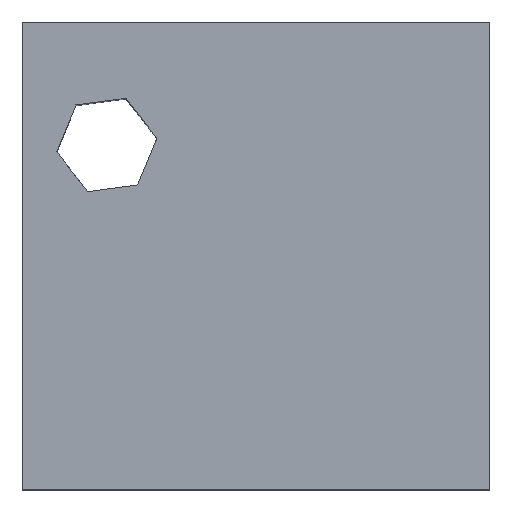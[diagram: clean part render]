
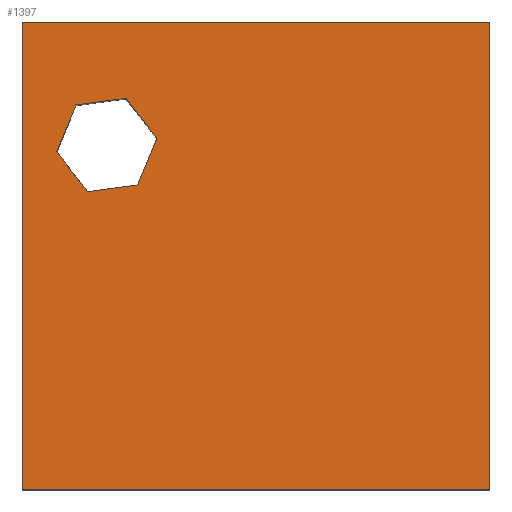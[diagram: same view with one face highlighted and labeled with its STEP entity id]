
A CAD part, top view. The second image highlights one B-rep face of the part: STEP entity #1397.
In plain terms, the highlighted planar face has unit normal (0, 0, 1).
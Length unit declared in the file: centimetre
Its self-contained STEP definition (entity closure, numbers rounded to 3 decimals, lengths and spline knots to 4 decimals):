
#16 = LINE ( 'NONE', #816, #1075 ) ;
#28 = VECTOR ( 'NONE', #1450, 100. ) ;
#37 = VERTEX_POINT ( 'NONE', #1379 ) ;
#40 = DIRECTION ( 'NONE',  ( 0.38, 0.925, 0. ) ) ;
#41 = DIRECTION ( 'NONE',  ( 0., -1., 0. ) ) ;
#51 = ORIENTED_EDGE ( 'NONE', *, *, #1456, .F. ) ;
#58 = DIRECTION ( 'NONE',  ( 1., 0., 0. ) ) ;
#62 = EDGE_CURVE ( 'NONE', #950, #798, #361, .T. ) ;
#129 = CARTESIAN_POINT ( 'NONE',  ( 73.5263, 722.3697, 1000. ) ) ;
#162 = DIRECTION ( 'NONE',  ( 0., 0., 1. ) ) ;
#188 = VECTOR ( 'NONE', #395, 100. ) ;
#190 = DIRECTION ( 'NONE',  ( -1., 0., 0. ) ) ;
#203 = EDGE_CURVE ( 'NONE', #328, #1264, #488, .T. ) ;
#226 = DIRECTION ( 'NONE',  ( 0.611, -0.792, 0. ) ) ;
#249 = FACE_OUTER_BOUND ( 'NONE', #371, .T. ) ;
#270 = EDGE_CURVE ( 'NONE', #798, #448, #822, .T. ) ;
#287 = VERTEX_POINT ( 'NONE', #996 ) ;
#303 = CARTESIAN_POINT ( 'NONE',  ( 0., 1000., 1000. ) ) ;
#328 = VERTEX_POINT ( 'NONE', #303 ) ;
#335 = CARTESIAN_POINT ( 'NONE',  ( 0., 0., 1000. ) ) ;
#361 = LINE ( 'NONE', #723, #763 ) ;
#371 = EDGE_LOOP ( 'NONE', ( #506, #528, #1421, #1179 ) ) ;
#388 = CARTESIAN_POINT ( 'NONE',  ( 0., 0., 1000. ) ) ;
#395 = DIRECTION ( 'NONE',  ( 0., 1., 0. ) ) ;
#431 = VERTEX_POINT ( 'NONE', #535 ) ;
#448 = VERTEX_POINT ( 'NONE', #1398 ) ;
#452 = LINE ( 'NONE', #129, #616 ) ;
#459 = DIRECTION ( 'NONE',  ( 0.991, 0.133, 0. ) ) ;
#472 = AXIS2_PLACEMENT_3D ( 'NONE', #388, #162, #58 ) ;
#474 = CARTESIAN_POINT ( 'NONE',  ( 114.6206, 822.3449, 1000. ) ) ;
#478 = VECTOR ( 'NONE', #41, 100. ) ;
#488 = LINE ( 'NONE', #1176, #478 ) ;
#506 = ORIENTED_EDGE ( 'NONE', *, *, #203, .T. ) ;
#528 = ORIENTED_EDGE ( 'NONE', *, *, #836, .T. ) ;
#535 = CARTESIAN_POINT ( 'NONE',  ( 246.6885, 651.1923, 1000. ) ) ;
#562 = VECTOR ( 'NONE', #805, 100. ) ;
#585 = CARTESIAN_POINT ( 'NONE',  ( 221.7488, 836.7438, 1000. ) ) ;
#616 = VECTOR ( 'NONE', #226, 100. ) ;
#625 = FACE_BOUND ( 'NONE', #1212, .T. ) ;
#705 = CARTESIAN_POINT ( 'NONE',  ( 287.7828, 751.1675, 1000. ) ) ;
#706 = PLANE ( 'NONE',  #472 ) ;
#723 = CARTESIAN_POINT ( 'NONE',  ( 221.7488, 836.7438, 1000. ) ) ;
#740 = CARTESIAN_POINT ( 'NONE',  ( 1000., 1000., 1000. ) ) ;
#763 = VECTOR ( 'NONE', #1280, 100. ) ;
#772 = ORIENTED_EDGE ( 'NONE', *, *, #1313, .F. ) ;
#773 = CARTESIAN_POINT ( 'NONE',  ( 114.6206, 822.3449, 1000. ) ) ;
#779 = CARTESIAN_POINT ( 'NONE',  ( 0., 0., 1000. ) ) ;
#796 = ORIENTED_EDGE ( 'NONE', *, *, #270, .F. ) ;
#798 = VERTEX_POINT ( 'NONE', #773 ) ;
#805 = DIRECTION ( 'NONE',  ( -0.611, 0.792, 0. ) ) ;
#816 = CARTESIAN_POINT ( 'NONE',  ( 139.5602, 636.7934, 1000. ) ) ;
#822 = LINE ( 'NONE', #474, #1460 ) ;
#836 = EDGE_CURVE ( 'NONE', #1264, #287, #1228, .T. ) ;
#849 = VERTEX_POINT ( 'NONE', #1113 ) ;
#856 = VECTOR ( 'NONE', #40, 100. ) ;
#934 = DIRECTION ( 'NONE',  ( -0.38, -0.925, 0. ) ) ;
#941 = LINE ( 'NONE', #1077, #856 ) ;
#950 = VERTEX_POINT ( 'NONE', #585 ) ;
#957 = VECTOR ( 'NONE', #190, 100. ) ;
#996 = CARTESIAN_POINT ( 'NONE',  ( 1000., 0., 1000. ) ) ;
#999 = ORIENTED_EDGE ( 'NONE', *, *, #62, .F. ) ;
#1001 = EDGE_CURVE ( 'NONE', #37, #950, #1027, .T. ) ;
#1027 = LINE ( 'NONE', #705, #562 ) ;
#1069 = EDGE_CURVE ( 'NONE', #849, #431, #16, .T. ) ;
#1075 = VECTOR ( 'NONE', #459, 100. ) ;
#1077 = CARTESIAN_POINT ( 'NONE',  ( 246.6885, 651.1923, 1000. ) ) ;
#1113 = CARTESIAN_POINT ( 'NONE',  ( 139.5602, 636.7934, 1000. ) ) ;
#1116 = EDGE_CURVE ( 'NONE', #1433, #328, #1436, .T. ) ;
#1136 = ORIENTED_EDGE ( 'NONE', *, *, #1001, .F. ) ;
#1176 = CARTESIAN_POINT ( 'NONE',  ( 0., 1000., 1000. ) ) ;
#1179 = ORIENTED_EDGE ( 'NONE', *, *, #1116, .T. ) ;
#1202 = ORIENTED_EDGE ( 'NONE', *, *, #1069, .F. ) ;
#1212 = EDGE_LOOP ( 'NONE', ( #51, #1202, #772, #796, #999, #1136 ) ) ;
#1228 = LINE ( 'NONE', #779, #28 ) ;
#1264 = VERTEX_POINT ( 'NONE', #335 ) ;
#1278 = LINE ( 'NONE', #1428, #188 ) ;
#1280 = DIRECTION ( 'NONE',  ( -0.991, -0.133, 0. ) ) ;
#1313 = EDGE_CURVE ( 'NONE', #448, #849, #452, .T. ) ;
#1379 = CARTESIAN_POINT ( 'NONE',  ( 287.7828, 751.1675, 1000. ) ) ;
#1384 = EDGE_CURVE ( 'NONE', #287, #1433, #1278, .T. ) ;
#1397 = ADVANCED_FACE ( 'NONE', ( #625, #249 ), #706, .T. ) ;
#1398 = CARTESIAN_POINT ( 'NONE',  ( 73.5263, 722.3697, 1000. ) ) ;
#1421 = ORIENTED_EDGE ( 'NONE', *, *, #1384, .T. ) ;
#1428 = CARTESIAN_POINT ( 'NONE',  ( 1000., 1000., 1000. ) ) ;
#1433 = VERTEX_POINT ( 'NONE', #740 ) ;
#1436 = LINE ( 'NONE', #1462, #957 ) ;
#1450 = DIRECTION ( 'NONE',  ( 1., 0., 0. ) ) ;
#1456 = EDGE_CURVE ( 'NONE', #431, #37, #941, .T. ) ;
#1460 = VECTOR ( 'NONE', #934, 100. ) ;
#1462 = CARTESIAN_POINT ( 'NONE',  ( 0., 1000., 1000. ) ) ;
